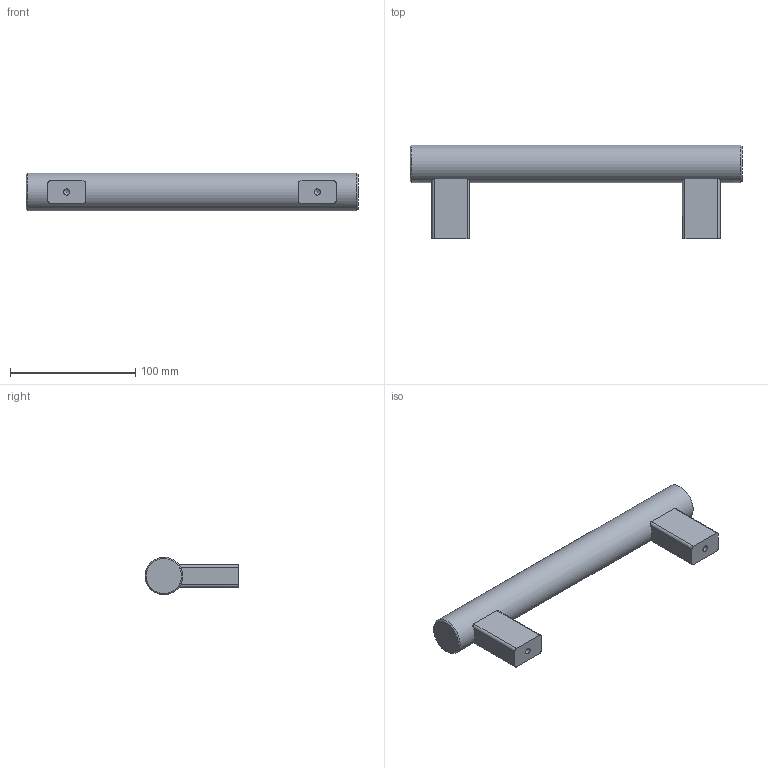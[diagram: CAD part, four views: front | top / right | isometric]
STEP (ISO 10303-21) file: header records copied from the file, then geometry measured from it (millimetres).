
FILE_DESCRIPTION( ( 'STEP AP203' ), '1' );
FILE_NAME( 'C:/Temp/Ganter_Step_05_03_2020/data/1_2/gn_666/Tubular handle GN 666-30-M6-200-SW.stp', '2020-03-05T10:18:13', ( 'License CC BY-ND 4.0' ), ( 'CADENAS' ), ' ', 'PARTsolutions', ' ' );
FILE_SCHEMA( ( 'CONFIG_CONTROL_DESIGN' ) );
Length unit declared in the file: millimetre
Products named in the file (1): _Tubular handle GN 666-30-M6-200-SW
Bounding box: 265 x 75 x 30 mm (x, y, z)
Volume: 235965.7 mm3; surface area: 35387.9 mm2
Topology: 1 solids, 1 shells, 27 faces, 65 edges, 42 vertices
Faces by surface type: plane 12, cylinder 11, cone 4
Full cylindrical faces by diameter (mm): 4.917 x2, 30 x1
Entity records: 882 total; most frequent: CARTESIAN_POINT 238, DIRECTION 124, ORIENTED_EDGE 112, EDGE_CURVE 56, AXIS2_PLACEMENT_3D 48, VERTEX_POINT 42, EDGE_LOOP 36, FACE_OUTER_BOUND 30
